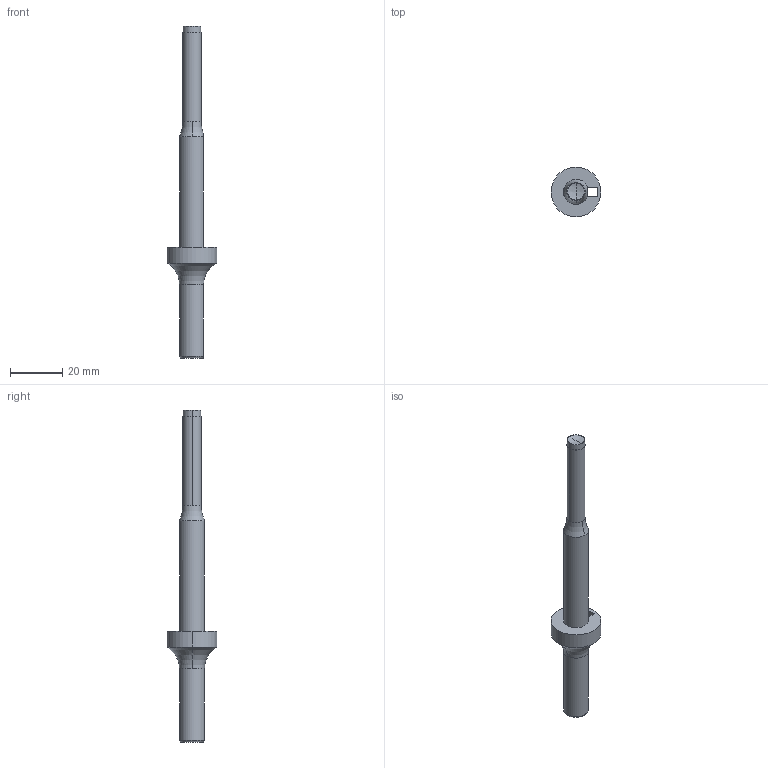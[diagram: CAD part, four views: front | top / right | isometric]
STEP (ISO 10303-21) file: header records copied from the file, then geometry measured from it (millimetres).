
FILE_DESCRIPTION (( 'STEP AP203' ), '1' );
FILE_NAME ('Default.step', '2023-12-18T13:18:41', ( '' ), ( '' ), 'SwSTEP 2.0', 'SolidWorks 2019', '' );
FILE_SCHEMA (( 'CONFIG_CONTROL_DESIGN' ));
Length unit declared in the file: millimetre
Products named in the file (1): Default
Bounding box: 19.06 x 19.06 x 127 mm (x, y, z)
Volume: 9247.4 mm3; surface area: 4231.6 mm2
Topology: 1 solids, 1 shells, 24 faces, 57 edges, 36 vertices
Faces by surface type: cylinder 8, plane 8, torus 4, cone 2, sphere 2
Entity records: 841 total; most frequent: CARTESIAN_POINT 187, DIRECTION 132, ORIENTED_EDGE 114, EDGE_CURVE 57, AXIS2_PLACEMENT_3D 57, VERTEX_POINT 36, CIRCLE 32, EDGE_LOOP 27
